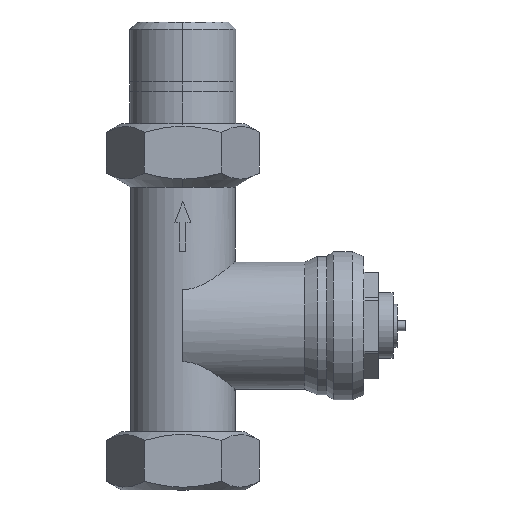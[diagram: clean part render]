
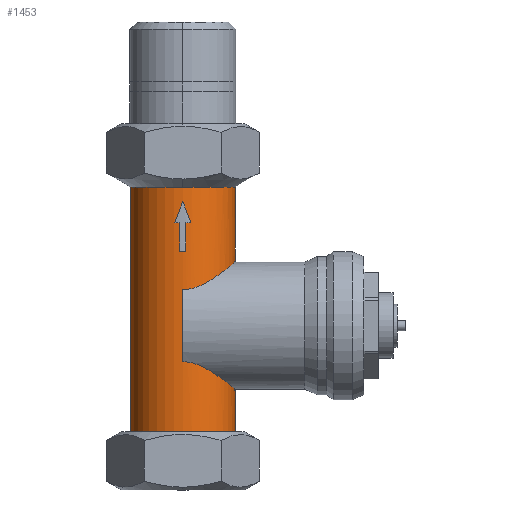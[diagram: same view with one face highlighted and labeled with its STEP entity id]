
A CAD part, left-side view. The second image highlights one B-rep face of the part: STEP entity #1453.
In plain terms, the highlighted cylindrical face has radius 10.5 mm (diameter 21 mm), a partial arc.
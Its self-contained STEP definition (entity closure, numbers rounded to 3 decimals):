
#223=CARTESIAN_POINT('',(-10.5,0.,48.826));
#224=VERTEX_POINT('',#223);
#233=CARTESIAN_POINT('',(0.,-10.5,48.826));
#234=VERTEX_POINT('',#233);
#235=CARTESIAN_POINT('',(0.,0.,48.826));
#236=DIRECTION('',(0.0,0.0,1.0));
#237=DIRECTION('',(0.0,-1.0,0.0));
#238=AXIS2_PLACEMENT_3D('',#235,#236,#237);
#239=CIRCLE('',#238,10.5);
#240=EDGE_CURVE('',#224,#234,#239,.T.);
#335=CARTESIAN_POINT('',(-2.61,-10.17,33.48));
#336=VERTEX_POINT('',#335);
#354=CARTESIAN_POINT('',(-10.5,0.,28.233));
#355=VERTEX_POINT('',#354);
#356=CARTESIAN_POINT('',(-10.5,0.,28.233));
#357=CARTESIAN_POINT('',(-10.5,-0.363,28.233));
#358=CARTESIAN_POINT('',(-10.481,-0.722,28.26));
#359=CARTESIAN_POINT('',(-10.408,-1.433,28.365));
#360=CARTESIAN_POINT('',(-10.353,-1.783,28.442));
#361=CARTESIAN_POINT('',(-10.14,-2.816,28.734));
#362=CARTESIAN_POINT('',(-9.93,-3.481,29.008));
#363=CARTESIAN_POINT('',(-9.392,-4.744,29.633));
#364=CARTESIAN_POINT('',(-9.064,-5.343,29.982));
#365=CARTESIAN_POINT('',(-8.309,-6.455,30.685));
#366=CARTESIAN_POINT('',(-7.882,-6.967,31.037));
#367=CARTESIAN_POINT('',(-6.984,-7.865,31.681));
#368=CARTESIAN_POINT('',(-6.483,-8.287,31.997));
#369=CARTESIAN_POINT('',(-5.374,-9.045,32.579));
#370=CARTESIAN_POINT('',(-4.768,-9.381,32.845));
#371=CARTESIAN_POINT('',(-3.638,-9.864,33.231));
#372=CARTESIAN_POINT('',(-3.13,-10.037,33.371));
#373=CARTESIAN_POINT('',(-2.61,-10.17,33.48));
#374=B_SPLINE_CURVE_WITH_KNOTS('',3,(#356,#357,#358,#359,#360,#361,#362,#363,#364,#365,#366,#367,#368,#369,#370,#371,#372,#373),.UNSPECIFIED.,.F.,.U.,(4,2,2,2,2,2,2,2,4),(-34.162,-33.074,-31.986,-29.81,-27.634,-25.458,-23.364,-21.27,-19.686),.UNSPECIFIED.);
#375=EDGE_CURVE('',#355,#336,#374,.T.);
#377=CARTESIAN_POINT('',(-10.5,0.,13.767));
#378=VERTEX_POINT('',#377);
#386=CARTESIAN_POINT('',(-2.61,-10.17,8.52));
#387=VERTEX_POINT('',#386);
#388=CARTESIAN_POINT('',(-2.61,-10.17,8.52));
#389=CARTESIAN_POINT('',(-3.13,-10.037,8.629));
#390=CARTESIAN_POINT('',(-3.638,-9.864,8.769));
#391=CARTESIAN_POINT('',(-4.768,-9.381,9.155));
#392=CARTESIAN_POINT('',(-5.374,-9.045,9.421));
#393=CARTESIAN_POINT('',(-6.483,-8.287,10.003));
#394=CARTESIAN_POINT('',(-6.984,-7.865,10.319));
#395=CARTESIAN_POINT('',(-7.882,-6.967,10.963));
#396=CARTESIAN_POINT('',(-8.309,-6.455,11.315));
#397=CARTESIAN_POINT('',(-9.064,-5.343,12.018));
#398=CARTESIAN_POINT('',(-9.392,-4.744,12.367));
#399=CARTESIAN_POINT('',(-9.93,-3.481,12.992));
#400=CARTESIAN_POINT('',(-10.14,-2.816,13.266));
#401=CARTESIAN_POINT('',(-10.353,-1.783,13.558));
#402=CARTESIAN_POINT('',(-10.408,-1.433,13.635));
#403=CARTESIAN_POINT('',(-10.481,-0.722,13.74));
#404=CARTESIAN_POINT('',(-10.5,-0.363,13.767));
#405=CARTESIAN_POINT('',(-10.5,0.,13.767));
#406=B_SPLINE_CURVE_WITH_KNOTS('',3,(#388,#389,#390,#391,#392,#393,#394,#395,#396,#397,#398,#399,#400,#401,#402,#403,#404,#405),.UNSPECIFIED.,.F.,.U.,(4,2,2,2,2,2,2,2,4),(19.686,21.27,23.364,25.458,27.634,29.81,31.986,33.074,34.162),.UNSPECIFIED.);
#407=EDGE_CURVE('',#387,#378,#406,.T.);
#449=CARTESIAN_POINT('',(0.,-10.5,-0.291));
#450=VERTEX_POINT('',#449);
#451=CARTESIAN_POINT('',(0.,-10.5,7.836));
#452=VERTEX_POINT('',#451);
#453=CARTESIAN_POINT('',(0.,-10.5,-0.291));
#454=DIRECTION('',(0.0,0.0,1.0));
#455=VECTOR('',#454,8.127);
#456=LINE('',#453,#455);
#457=EDGE_CURVE('',#450,#452,#456,.T.);
#459=CARTESIAN_POINT('',(0.,10.5,-0.291));
#460=VERTEX_POINT('',#459);
#468=CARTESIAN_POINT('',(0.,10.5,48.826));
#469=VERTEX_POINT('',#468);
#470=CARTESIAN_POINT('',(0.,10.5,48.826));
#471=DIRECTION('',(0.0,0.0,-1.0));
#472=VECTOR('',#471,49.117);
#473=LINE('',#470,#472);
#474=EDGE_CURVE('',#469,#460,#473,.T.);
#484=CARTESIAN_POINT('',(0.,-10.5,34.164));
#485=VERTEX_POINT('',#484);
#486=CARTESIAN_POINT('',(0.,-10.5,34.164));
#487=DIRECTION('',(0.0,0.0,1.0));
#488=VECTOR('',#487,14.662);
#489=LINE('',#486,#488);
#490=EDGE_CURVE('',#485,#234,#489,.T.);
#989=CARTESIAN_POINT('',(0.,0.,-0.291));
#990=DIRECTION('',(0.0,0.0,1.0));
#991=DIRECTION('',(0.0,-1.0,0.0));
#992=AXIS2_PLACEMENT_3D('',#989,#990,#991);
#993=CIRCLE('',#992,10.5);
#994=EDGE_CURVE('',#460,#450,#993,.T.);
#1406=CARTESIAN_POINT('',(0.,0.,17.657));
#1407=DIRECTION('',(0.,0.,1.0));
#1408=DIRECTION('',(0.0,-1.0,0.0));
#1409=AXIS2_PLACEMENT_3D('',#1406,#1407,#1408);
#1410=CYLINDRICAL_SURFACE('',#1409,10.5);
#1411=ORIENTED_EDGE('',*,*,#457,.T.);
#1412=CARTESIAN_POINT('',(0.,-10.5,7.836));
#1413=CARTESIAN_POINT('',(-0.833,-10.5,7.836));
#1414=CARTESIAN_POINT('',(-1.662,-10.396,8.047));
#1415=CARTESIAN_POINT('',(-2.411,-10.219,8.417));
#1416=CARTESIAN_POINT('',(-2.478,-10.204,8.45));
#1417=CARTESIAN_POINT('',(-2.544,-10.187,8.485));
#1418=CARTESIAN_POINT('',(-2.61,-10.17,8.52));
#1419=B_SPLINE_CURVE_WITH_KNOTS('',3,(#1412,#1413,#1414,#1415,#1416,#1417,#1418),.UNSPECIFIED.,.F.,.U.,(4,3,4),(14.152,16.298,16.49),.UNSPECIFIED.);
#1420=EDGE_CURVE('',#387,#452,#1419,.F.);
#1421=ORIENTED_EDGE('',*,*,#1420,.F.);
#1422=ORIENTED_EDGE('',*,*,#407,.T.);
#1423=CARTESIAN_POINT('',(-10.5,0.,13.767));
#1424=DIRECTION('',(0.0,0.0,1.0));
#1425=VECTOR('',#1424,14.465);
#1426=LINE('',#1423,#1425);
#1427=EDGE_CURVE('',#378,#355,#1426,.T.);
#1428=ORIENTED_EDGE('',*,*,#1427,.T.);
#1429=ORIENTED_EDGE('',*,*,#375,.T.);
#1430=CARTESIAN_POINT('',(-2.61,-10.17,33.48));
#1431=CARTESIAN_POINT('',(-2.064,-10.311,33.775));
#1432=CARTESIAN_POINT('',(-1.472,-10.414,33.988));
#1433=CARTESIAN_POINT('',(-0.86,-10.465,34.092));
#1434=CARTESIAN_POINT('',(-0.576,-10.488,34.14));
#1435=CARTESIAN_POINT('',(-0.288,-10.5,34.164));
#1436=CARTESIAN_POINT('',(0.,-10.5,34.164));
#1437=B_SPLINE_CURVE_WITH_KNOTS('',3,(#1430,#1431,#1432,#1433,#1434,#1435,#1436),.UNSPECIFIED.,.F.,.U.,(4,3,4),(40.126,41.722,42.463),.UNSPECIFIED.);
#1438=EDGE_CURVE('',#336,#485,#1437,.T.);
#1439=ORIENTED_EDGE('',*,*,#1438,.T.);
#1440=ORIENTED_EDGE('',*,*,#490,.T.);
#1441=ORIENTED_EDGE('',*,*,#240,.F.);
#1442=CARTESIAN_POINT('',(0.,0.,48.826));
#1443=DIRECTION('',(0.0,0.0,1.0));
#1444=DIRECTION('',(0.0,-1.0,0.0));
#1445=AXIS2_PLACEMENT_3D('',#1442,#1443,#1444);
#1446=CIRCLE('',#1445,10.5);
#1447=EDGE_CURVE('',#469,#224,#1446,.T.);
#1448=ORIENTED_EDGE('',*,*,#1447,.F.);
#1449=ORIENTED_EDGE('',*,*,#474,.T.);
#1450=ORIENTED_EDGE('',*,*,#994,.T.);
#1451=EDGE_LOOP('',(#1411,#1421,#1422,#1428,#1429,#1439,#1440,#1441,#1448,#1449,#1450));
#1452=FACE_OUTER_BOUND('',#1451,.T.);
#1453=ADVANCED_FACE('',(#1452),#1410,.T.);
